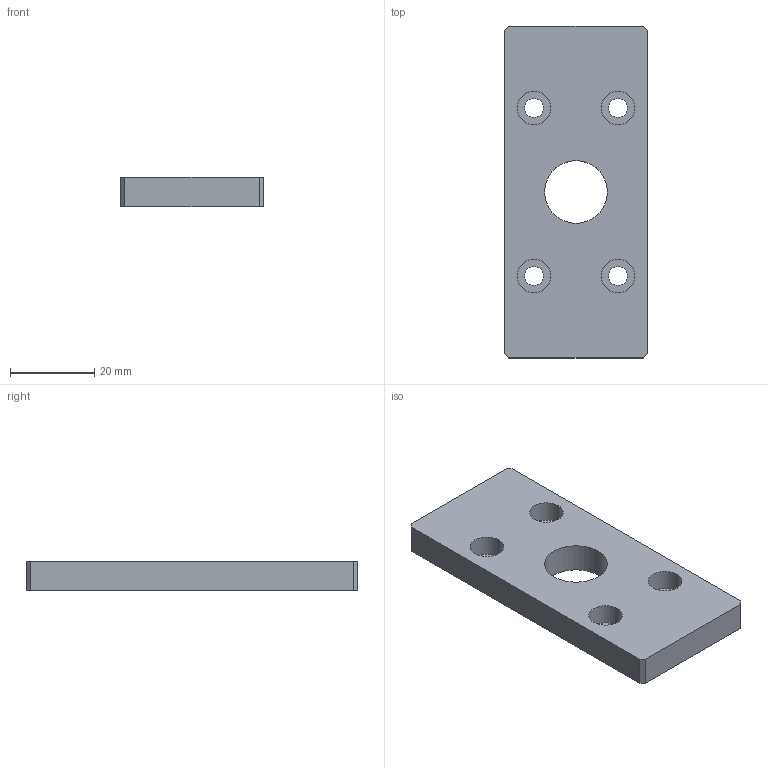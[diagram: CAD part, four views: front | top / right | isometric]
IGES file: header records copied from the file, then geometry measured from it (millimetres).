
Global section: file name: No Iges File Name specified; native system: AutoDesk Inventor R11.0; preprocessor: AutoDesk Inventor Iges Exporter R11.0; author: No Author specified; organization: No Organization specified; date: 20070618.133451; units: millimetre
Bounding box: 34 x 79 x 7 mm (x, y, z)
Volume: 16432.3 mm3; surface area: 7400.5 mm2
Topology: 1 solids, 1 shells, 32 faces, 78 edges, 52 vertices
Faces by surface type: bspline 22, plane 10
